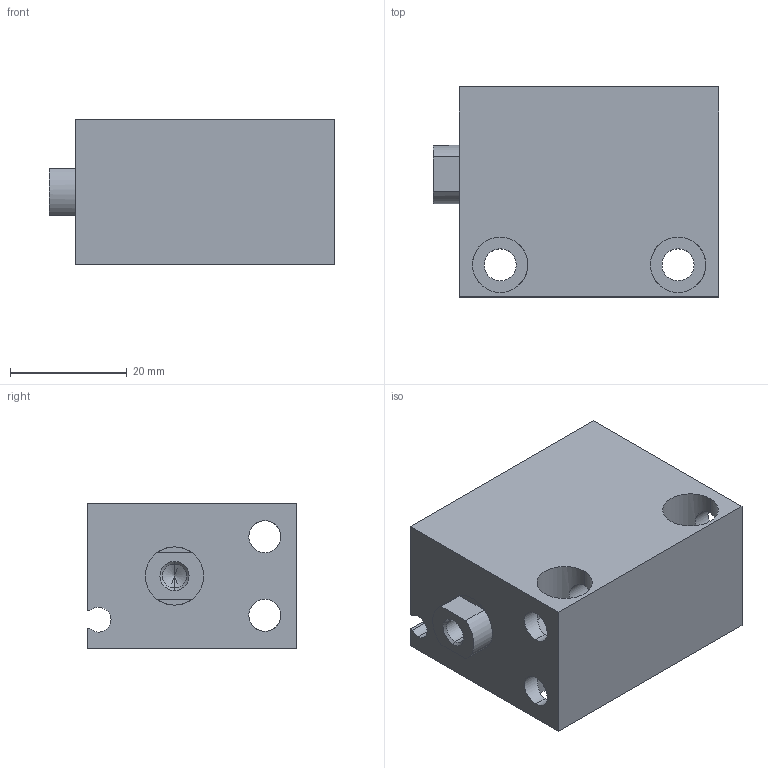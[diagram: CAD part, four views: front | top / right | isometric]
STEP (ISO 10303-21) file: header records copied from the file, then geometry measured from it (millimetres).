
FILE_DESCRIPTION (( 'STEP AP203' ), '1' );
FILE_NAME ('CLJB20-25.STEP', '2020-07-30T19:26:36', ( '' ), ( '' ), 'SwSTEP 2.0', 'SolidWorks 2019', '' );
FILE_SCHEMA (( 'CONFIG_CONTROL_DESIGN' ));
Length unit declared in the file: millimetre
Products named in the file (1): CLJB20-25
Bounding box: 49 x 36 x 25 mm (x, y, z)
Volume: 29492.1 mm3; surface area: 13887.2 mm2
Topology: 2 solids, 2 shells, 75 faces, 188 edges, 113 vertices
Faces by surface type: cylinder 41, plane 22, cone 12
Entity records: 3255 total; most frequent: CARTESIAN_POINT 1359, DIRECTION 394, ORIENTED_EDGE 364, EDGE_CURVE 182, AXIS2_PLACEMENT_3D 152, VERTEX_POINT 113, EDGE_LOOP 93, LINE 90
